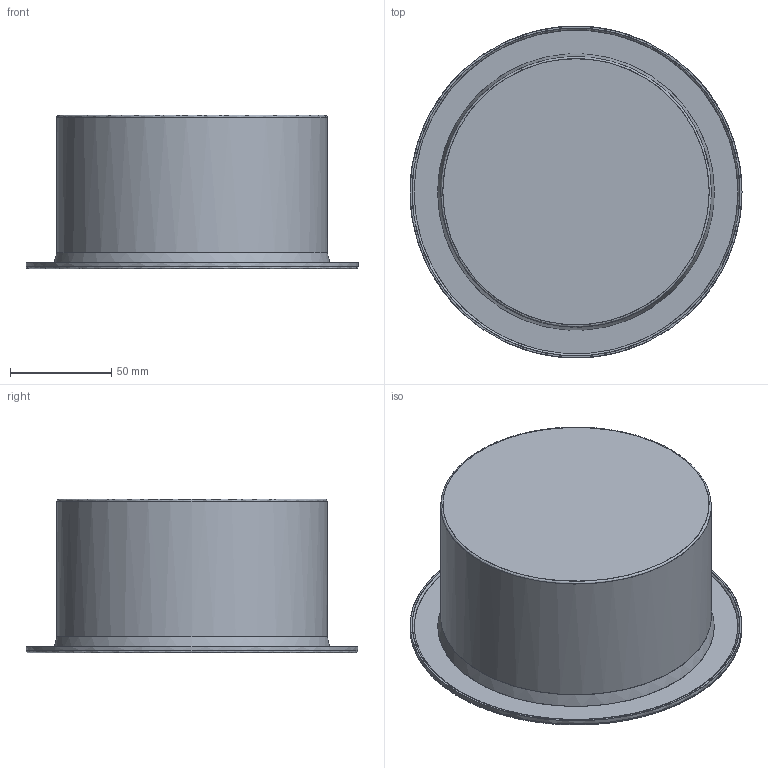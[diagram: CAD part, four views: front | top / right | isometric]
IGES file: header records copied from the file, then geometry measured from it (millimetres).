
Start section: SolidWorks IGES file using NURBS representation for surfaces
Global section: file name: Z:\Modele 3D_WWW\_Commercial\CL-KEA-LED\CL-KEA-LED-30W-8770-8771\CL-KEA-LED-30W-8770-8771.IGS; native system: SolidWorks 2021; preprocessor: SolidWorks 2021; author: gabriela.tworek; date: 220218.115748; units: millimetre
Bounding box: 164 x 163.88 x 76 mm (x, y, z)
Surface area: 149081 mm2 (no closed solid volume)
Topology: 0 solids, 0 shells, 24 faces, 102 edges, 88 vertices
Faces by surface type: bspline 24
